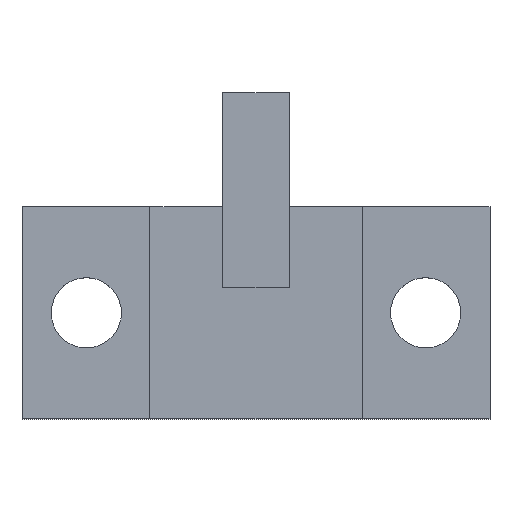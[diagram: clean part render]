
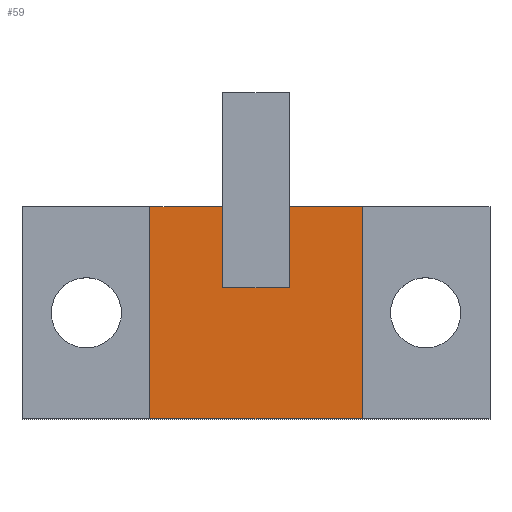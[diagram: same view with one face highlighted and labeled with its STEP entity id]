
A CAD part, top view. The second image highlights one B-rep face of the part: STEP entity #59.
In plain terms, the highlighted planar face has unit normal (0, 0, 1).
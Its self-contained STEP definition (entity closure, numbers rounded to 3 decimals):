
#59=ADVANCED_FACE('',(#222),#224,.T.);
#222=FACE_BOUND('',#223,.T.);
#223=EDGE_LOOP('',(#531,#532,#533,#534,#535,#536,#537,#538));
#224=PLANE('',#225);
#225=AXIS2_PLACEMENT_3D('',#226,#227,#228);
#226=CARTESIAN_POINT('',(0.,0.,5.));
#227=DIRECTION('',(0.,0.,1.));
#228=DIRECTION('',(-1.,0.,0.));
#531=ORIENTED_EDGE('',*,*,#756,.T.);
#532=ORIENTED_EDGE('',*,*,#757,.F.);
#533=ORIENTED_EDGE('',*,*,#758,.T.);
#534=ORIENTED_EDGE('',*,*,#759,.T.);
#535=ORIENTED_EDGE('',*,*,#760,.T.);
#536=ORIENTED_EDGE('',*,*,#761,.T.);
#537=ORIENTED_EDGE('',*,*,#762,.T.);
#538=ORIENTED_EDGE('',*,*,#763,.F.);
#756=EDGE_CURVE('',#902,#903,#904,.T.);
#757=EDGE_CURVE('',#905,#903,#906,.T.);
#758=EDGE_CURVE('',#905,#907,#908,.T.);
#759=EDGE_CURVE('',#907,#909,#910,.T.);
#760=EDGE_CURVE('',#909,#911,#912,.T.);
#761=EDGE_CURVE('',#911,#913,#914,.T.);
#762=EDGE_CURVE('',#913,#915,#916,.T.);
#763=EDGE_CURVE('',#902,#915,#917,.T.);
#902=VERTEX_POINT('',#1027);
#903=VERTEX_POINT('',#1028);
#904=LINE('',#1029,#1030);
#905=VERTEX_POINT('',#1032);
#906=LINE('',#1033,#1034);
#907=VERTEX_POINT('',#1036);
#908=LINE('',#1037,#1038);
#909=VERTEX_POINT('',#1040);
#910=LINE('',#1041,#1042);
#911=VERTEX_POINT('',#1044);
#912=LINE('',#1045,#1046);
#913=VERTEX_POINT('',#1048);
#914=LINE('',#1049,#1050);
#915=VERTEX_POINT('',#1052);
#916=LINE('',#1053,#1054);
#917=LINE('',#1056,#1057);
#1027=CARTESIAN_POINT('',(2.,1.5,5.));
#1028=CARTESIAN_POINT('',(-2.,1.5,5.));
#1029=CARTESIAN_POINT('',(2.,1.5,5.));
#1030=VECTOR('',#1031,1.);
#1031=DIRECTION('',(-1.,0.,0.));
#1032=CARTESIAN_POINT('',(-2.,6.35,5.));
#1033=CARTESIAN_POINT('',(-2.,6.35,5.));
#1034=VECTOR('',#1035,1.);
#1035=DIRECTION('',(0.,-1.,0.));
#1036=CARTESIAN_POINT('',(-6.35,6.35,5.));
#1037=CARTESIAN_POINT('',(-2.,6.35,5.));
#1038=VECTOR('',#1039,1.);
#1039=DIRECTION('',(-1.,0.,0.));
#1040=CARTESIAN_POINT('',(-6.35,-6.35,5.));
#1041=CARTESIAN_POINT('',(-6.35,6.35,5.));
#1042=VECTOR('',#1043,1.);
#1043=DIRECTION('',(0.,-1.,0.));
#1044=CARTESIAN_POINT('',(6.35,-6.35,5.));
#1045=CARTESIAN_POINT('',(-6.35,-6.35,5.));
#1046=VECTOR('',#1047,1.);
#1047=DIRECTION('',(1.,0.,0.));
#1048=CARTESIAN_POINT('',(6.35,6.35,5.));
#1049=CARTESIAN_POINT('',(6.35,-6.35,5.));
#1050=VECTOR('',#1051,1.);
#1051=DIRECTION('',(0.,1.,0.));
#1052=CARTESIAN_POINT('',(2.,6.35,5.));
#1053=CARTESIAN_POINT('',(6.35,6.35,5.));
#1054=VECTOR('',#1055,1.);
#1055=DIRECTION('',(-1.,0.,0.));
#1056=CARTESIAN_POINT('',(2.,1.5,5.));
#1057=VECTOR('',#1058,1.);
#1058=DIRECTION('',(0.,1.,0.));
